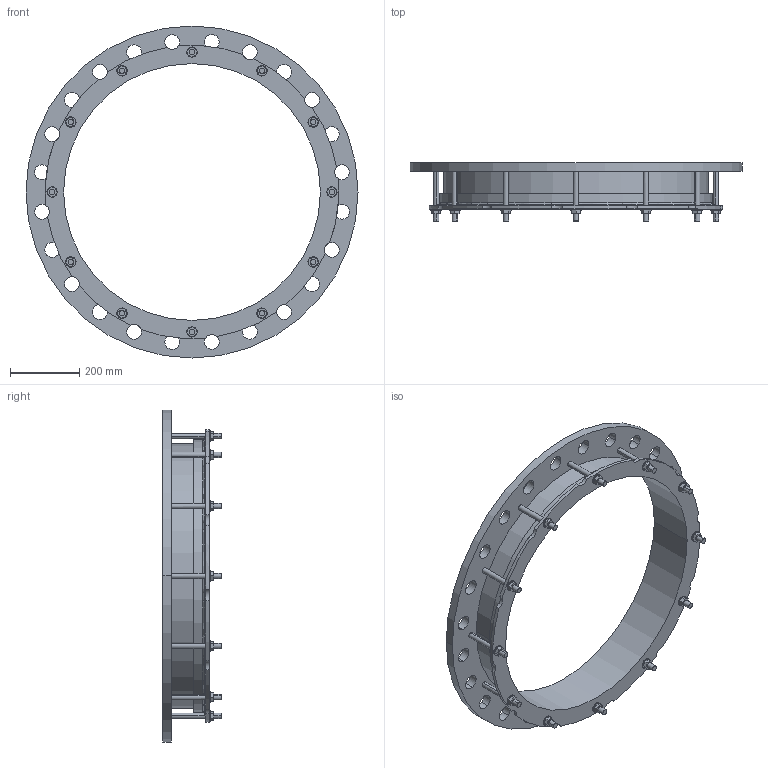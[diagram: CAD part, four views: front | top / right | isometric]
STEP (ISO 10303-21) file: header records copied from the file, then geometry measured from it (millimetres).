
FILE_DESCRIPTION((''),'2;1');
FILE_NAME('738X700PN25_12NOT','2019-04-04T',('mfairey'),('Glynwed Pipe Systems'),'CREO PARAMETRIC BY PTC INC, 2016130','CREO PARAMETRIC BY PTC INC, 2016130','');
FILE_SCHEMA(('CONFIG_CONTROL_DESIGN'));
Length unit declared in the file: millimetre
Products named in the file (1): 738X700PN25_12NOT
Bounding box: 960 x 169 x 960 mm (x, y, z)
Volume: 11762842.9 mm3; surface area: 1524200.3 mm2
Topology: 1 solids, 1 shells, 268 faces, 718 edges, 478 vertices
Faces by surface type: cylinder 150, plane 112, cone 4, torus 2
Entity records: 9650 total; most frequent: CARTESIAN_POINT 2586, DIRECTION 1474, ORIENTED_EDGE 1436, EDGE_CURVE 718, AXIS2_PLACEMENT_3D 552, VERTEX_POINT 478, VECTOR 370, LINE 370
